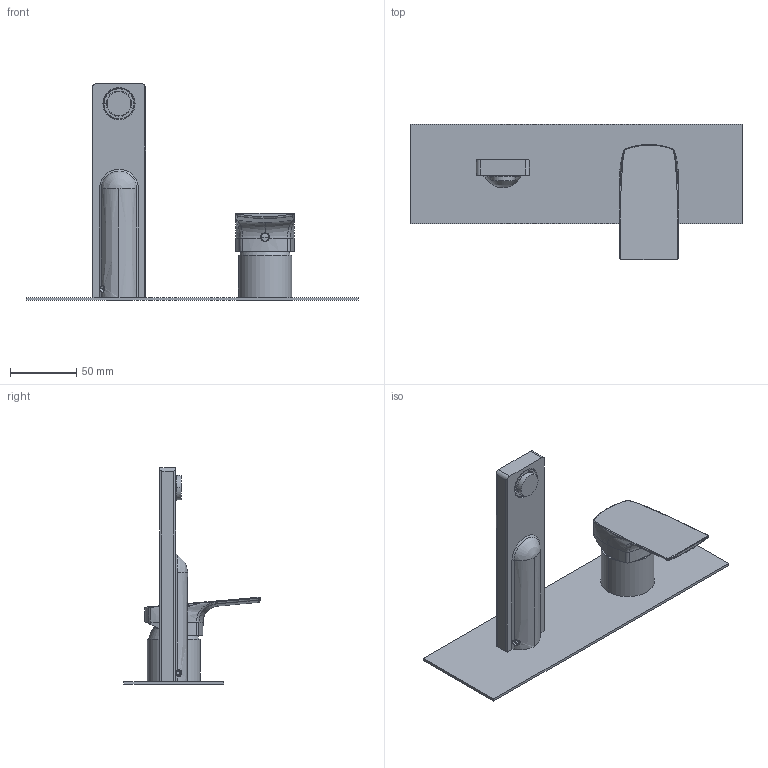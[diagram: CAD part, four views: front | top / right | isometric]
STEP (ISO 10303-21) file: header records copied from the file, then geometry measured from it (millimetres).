
FILE_DESCRIPTION((''),'2;1');
FILE_NAME('3D_SW0006','2024-10-07T15:29:44',('volponeff'),(''),'CREO PARAMETRIC BY PTC INC, 2022014','CREO PARAMETRIC BY PTC INC, 2022014','');
FILE_SCHEMA(('CONFIG_CONTROL_DESIGN'));
Products named in the file (1): 3D_SW0006
Bounding box: 250 x 102.5 x 163 mm (x, y, z)
Volume: 163987.2 mm3; surface area: 107824.5 mm2
Topology: 3 solids, 3 shells, 937 faces, 2649 edges, 1718 vertices
Faces by surface type: cylinder 353, plane 310, bspline 100, torus 87, cone 71, sphere 16
Entity records: 66490 total; most frequent: CARTESIAN_POINT 42898, ORIENTED_EDGE 5280, DIRECTION 4577, EDGE_CURVE 2640, AXIS2_PLACEMENT_3D 1718, VERTEX_POINT 1718, VECTOR 1141, LINE 1141
